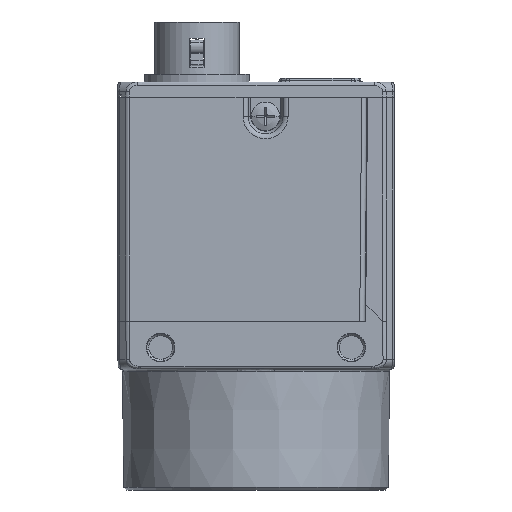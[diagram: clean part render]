
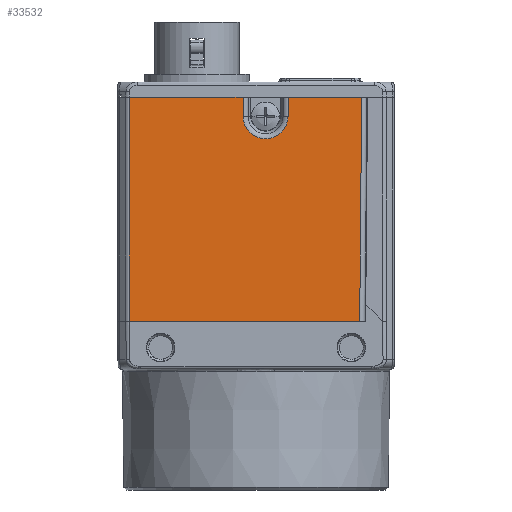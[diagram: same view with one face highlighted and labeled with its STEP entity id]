
A CAD part, left-side view. The second image highlights one B-rep face of the part: STEP entity #33532.
In plain terms, the highlighted planar face has unit normal (-1, 0, 0).
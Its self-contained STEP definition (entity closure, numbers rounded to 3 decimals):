
#10017=DIRECTION('',(0.,0.,1.));
#10018=VECTOR('',#10017,23.5);
#10019=CARTESIAN_POINT('',(-14.5,13.293,
-0.5));
#10020=LINE('',#10019,#10018);
#10021=CARTESIAN_POINT('',(-14.5,-1.,21.));
#10022=DIRECTION('',(-1.,0.,0.));
#10023=DIRECTION('',(0.,1.,0.));
#10024=AXIS2_PLACEMENT_3D('',#10021,#10022,#10023);
#10026=DIRECTION('',(0.,0.009,-1.));
#10027=VECTOR('',#10026,23.501);
#10028=CARTESIAN_POINT('',(-14.5,-11.085,
23.));
#10029=LINE('',#10028,#10027);
#10164=DIRECTION('',(0.,-1.,0.));
#10165=VECTOR('',#10164,24.173);
#10166=CARTESIAN_POINT('',(-14.5,13.293,
-0.5));
#10167=LINE('',#10166,#10165);
#13251=CARTESIAN_POINT('',(-14.5,13.293,
-0.5));
#13268=CARTESIAN_POINT('',(-14.5,13.293,
23.));
#13288=DIRECTION('',(0.,-1.,0.));
#13289=VECTOR('',#13288,11.935);
#13290=CARTESIAN_POINT('',(-14.5,13.293,
23.));
#13291=LINE('',#13290,#13289);
#13376=DIRECTION('',(0.,-1.,0.));
#13377=VECTOR('',#13376,7.727);
#13378=CARTESIAN_POINT('',(-14.5,-3.358,23.));
#13379=LINE('',#13378,#13377);
#14301=DIRECTION('',(0.,0.,-1.));
#14302=VECTOR('',#14301,2.);
#14303=CARTESIAN_POINT('',(-14.5,-3.358,23.));
#14304=LINE('',#14303,#14302);
#14315=DIRECTION('',(0.,0.,1.));
#14316=VECTOR('',#14315,2.);
#14317=CARTESIAN_POINT('',(-14.5,1.358,21.));
#14318=LINE('',#14317,#14316);
#19041=CARTESIAN_POINT('',(-14.5,1.358,21.));
#19042=CARTESIAN_POINT('',(-14.5,-3.358,21.));
#19043=VERTEX_POINT('',#19041);
#19044=VERTEX_POINT('',#19042);
#20591=VERTEX_POINT('',#13251);
#20592=CARTESIAN_POINT('',(-14.5,-10.88,
-0.5));
#20593=VERTEX_POINT('',#20592);
#20644=VERTEX_POINT('',#13268);
#20645=CARTESIAN_POINT('',(-14.5,1.358,23.));
#20646=VERTEX_POINT('',#20645);
#20647=CARTESIAN_POINT('',(-14.5,-3.358,23.));
#20648=CARTESIAN_POINT('',(-14.5,-11.085,
23.));
#20649=VERTEX_POINT('',#20647);
#20650=VERTEX_POINT('',#20648);
#33510=CARTESIAN_POINT('',(-14.5,1.104,11.25));
#33511=DIRECTION('',(1.,0.,0.));
#33512=DIRECTION('',(0.,-1.,0.));
#33513=AXIS2_PLACEMENT_3D('',#33510,#33511,#33512);
#33514=PLANE('',#33513);
#33516=ORIENTED_EDGE('',*,*,#33515,.F.);
#33518=ORIENTED_EDGE('',*,*,#33517,.T.);
#33520=ORIENTED_EDGE('',*,*,#33519,.T.);
#33522=ORIENTED_EDGE('',*,*,#33521,.F.);
#33524=ORIENTED_EDGE('',*,*,#33523,.T.);
#33526=ORIENTED_EDGE('',*,*,#33525,.F.);
#33528=ORIENTED_EDGE('',*,*,#33527,.T.);
#33529=ORIENTED_EDGE('',*,*,#33503,.T.);
#33530=EDGE_LOOP('',(#33516,#33518,#33520,#33522,#33524,#33526,#33528,#33529));
#33531=FACE_OUTER_BOUND('',#33530,.F.);
#33532=ADVANCED_FACE('',(#33531),#33514,.F.);
#10025=CIRCLE('',#10024,2.358);
#33503=EDGE_CURVE('',#20650,#20593,#10029,.T.);
#33515=EDGE_CURVE('',#20591,#20593,#10167,.T.);
#33517=EDGE_CURVE('',#20591,#20644,#10020,.T.);
#33519=EDGE_CURVE('',#20644,#20646,#13291,.T.);
#33521=EDGE_CURVE('',#19043,#20646,#14318,.T.);
#33523=EDGE_CURVE('',#19043,#19044,#10025,.T.);
#33525=EDGE_CURVE('',#20649,#19044,#14304,.T.);
#33527=EDGE_CURVE('',#20649,#20650,#13379,.T.);
